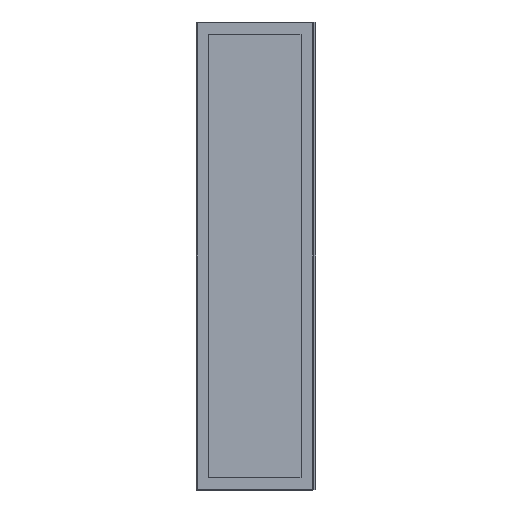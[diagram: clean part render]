
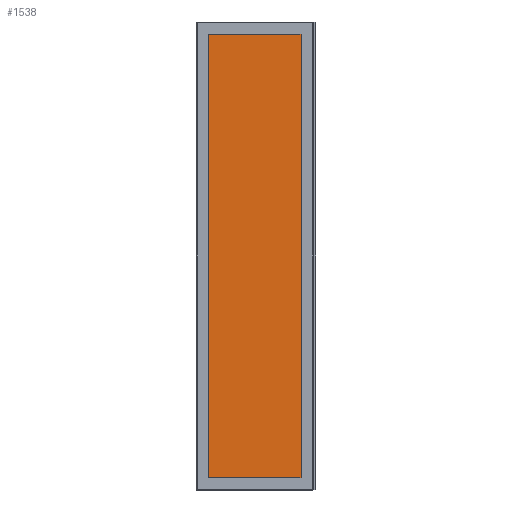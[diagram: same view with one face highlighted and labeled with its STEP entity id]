
A CAD part, front view. The second image highlights one B-rep face of the part: STEP entity #1538.
In plain terms, the highlighted planar face has unit normal (0, -1, 0).
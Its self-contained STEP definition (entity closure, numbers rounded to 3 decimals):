
#1538=ADVANCED_FACE('',(#5463),#5465,.F.);
#5463=FACE_BOUND('',#5464,.T.);
#5464=EDGE_LOOP('',(#7772,#7773,#7774,#7775));
#5465=PLANE('',#5466);
#5466=AXIS2_PLACEMENT_3D('',#5467,#5468,#5469);
#5467=CARTESIAN_POINT('',(0.,0.,0.));
#5468=DIRECTION('',(-0.,1.,0.));
#5469=DIRECTION('',(1.,0.,0.));
#7772=ORIENTED_EDGE('',*,*,#8822,.F.);
#7773=ORIENTED_EDGE('',*,*,#8819,.F.);
#7774=ORIENTED_EDGE('',*,*,#8816,.F.);
#7775=ORIENTED_EDGE('',*,*,#8812,.F.);
#8812=EDGE_CURVE('',#10236,#10237,#10238,.T.);
#8816=EDGE_CURVE('',#10237,#10244,#10245,.T.);
#8819=EDGE_CURVE('',#10244,#10249,#10250,.T.);
#8822=EDGE_CURVE('',#10249,#10236,#10254,.T.);
#10236=VERTEX_POINT('',#13832);
#10237=VERTEX_POINT('',#13833);
#10238=LINE('',#13834,#13835);
#10244=VERTEX_POINT('',#13848);
#10245=LINE('',#13849,#13850);
#10249=VERTEX_POINT('',#13859);
#10250=LINE('',#13860,#13861);
#10254=LINE('',#13870,#13871);
#13832=CARTESIAN_POINT('',(-133.,0.,584.));
#13833=CARTESIAN_POINT('',(133.,0.,584.));
#13834=CARTESIAN_POINT('',(-133.,0.,584.));
#13835=VECTOR('',#13836,1.);
#13836=DIRECTION('',(1.,0.,0.));
#13848=CARTESIAN_POINT('',(133.,0.,-584.));
#13849=CARTESIAN_POINT('',(133.,0.,584.));
#13850=VECTOR('',#13851,1.);
#13851=DIRECTION('',(0.,0.,-1.));
#13859=CARTESIAN_POINT('',(-133.,0.,-584.));
#13860=CARTESIAN_POINT('',(133.,0.,-584.));
#13861=VECTOR('',#13862,1.);
#13862=DIRECTION('',(-1.,0.,0.));
#13870=CARTESIAN_POINT('',(-133.,0.,-584.));
#13871=VECTOR('',#13872,1.);
#13872=DIRECTION('',(0.,0.,1.));
